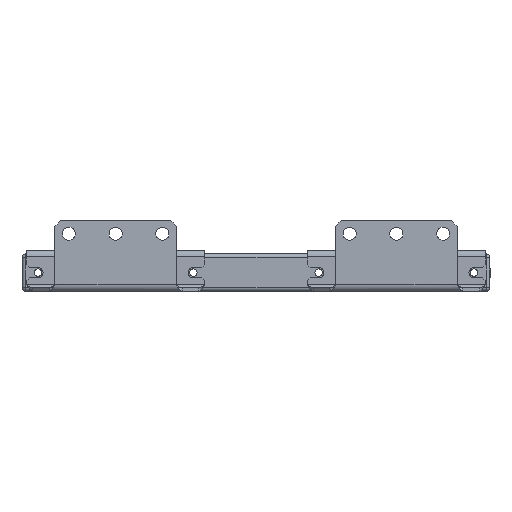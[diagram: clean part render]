
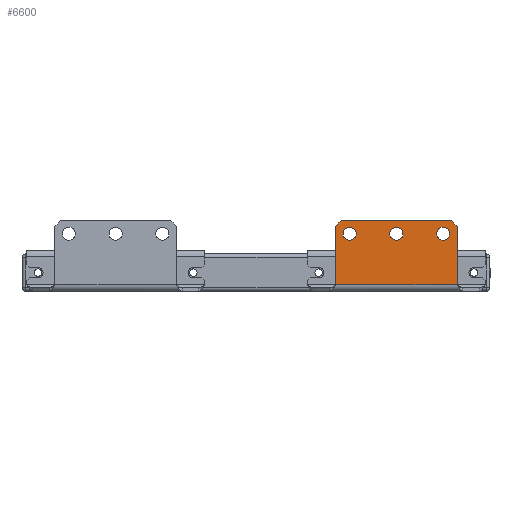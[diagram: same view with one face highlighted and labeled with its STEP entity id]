
A CAD part, left-side view. The second image highlights one B-rep face of the part: STEP entity #6600.
In plain terms, the highlighted planar face has unit normal (-1, 0, 0).
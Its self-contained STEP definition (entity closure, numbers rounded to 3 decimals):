
#2474 = DIRECTION ( 'NONE',  ( 0., 0., 1. ) ) ;
#2475 = DIRECTION ( 'NONE',  ( 1., 0., 0. ) ) ;
#2476 = CARTESIAN_POINT ( 'NONE',  ( -242.5, -27.5, 37.75 ) ) ;
#2477 = PLANE ( 'NONE',  #3867 ) ;
#3561 = AXIS2_PLACEMENT_3D ( 'NONE', #5512, #5985, #5703 ) ;
#3828 = FACE_OUTER_BOUND ( 'NONE', #12578, .T. ) ;
#3834 = FACE_BOUND ( 'NONE', #7842, .T. ) ;
#3840 = FACE_BOUND ( 'NONE', #12105, .T. ) ;
#3843 = FACE_BOUND ( 'NONE', #7916, .T. ) ;
#3867 = AXIS2_PLACEMENT_3D ( 'NONE', #2476, #2475, #2474 ) ;
#3918 = AXIS2_PLACEMENT_3D ( 'NONE', #5907, #5486, #5451 ) ;
#4187 = AXIS2_PLACEMENT_3D ( 'NONE', #5259, #5831, #5062 ) ;
#4262 = CARTESIAN_POINT ( 'NONE',  ( -242.5, -75., 27.25 ) ) ;
#4410 = CARTESIAN_POINT ( 'NONE',  ( -242.5, -107.5, 3.5 ) ) ;
#4426 = CARTESIAN_POINT ( 'NONE',  ( -242.5, -50., 27.25 ) ) ;
#4454 = CARTESIAN_POINT ( 'NONE',  ( -242.5, -100., 27.25 ) ) ;
#4510 = CARTESIAN_POINT ( 'NONE',  ( -242.5, -75., 34.25 ) ) ;
#4516 = CARTESIAN_POINT ( 'NONE',  ( -242.5, -50., 34.25 ) ) ;
#4518 = CARTESIAN_POINT ( 'NONE',  ( -242.5, -42.5, 3.5 ) ) ;
#4627 = CARTESIAN_POINT ( 'NONE',  ( -242.5, -42.5, 34.75 ) ) ;
#4647 = CARTESIAN_POINT ( 'NONE',  ( -242.5, -104.5, 37.75 ) ) ;
#4666 = CARTESIAN_POINT ( 'NONE',  ( -242.5, -100., 34.25 ) ) ;
#4793 = CARTESIAN_POINT ( 'NONE',  ( -242.5, -107.5, 34.75 ) ) ;
#5062 = DIRECTION ( 'NONE',  ( 0., 0., -1. ) ) ;
#5259 = CARTESIAN_POINT ( 'NONE',  ( -242.5, -75., 30.75 ) ) ;
#5451 = DIRECTION ( 'NONE',  ( 0., 0., -1. ) ) ;
#5486 = DIRECTION ( 'NONE',  ( 1., 0., 0. ) ) ;
#5512 = CARTESIAN_POINT ( 'NONE',  ( -242.5, -100., 30.75 ) ) ;
#5703 = DIRECTION ( 'NONE',  ( 0., 0., -1. ) ) ;
#5831 = DIRECTION ( 'NONE',  ( 1., 0., 0. ) ) ;
#5907 = CARTESIAN_POINT ( 'NONE',  ( -242.5, -50., 30.75 ) ) ;
#5985 = DIRECTION ( 'NONE',  ( 1., 0., 0. ) ) ;
#6294 = CIRCLE ( 'NONE', #3918, 3.5 ) ;
#6296 = CIRCLE ( 'NONE', #3561, 3.5 ) ;
#6304 = CIRCLE ( 'NONE', #4187, 3.5 ) ;
#6600 = ADVANCED_FACE ( 'NONE', ( #3843, #3840, #3834, #3828 ), #2477, .F. ) ;
#7842 = EDGE_LOOP ( 'NONE', ( #11879, #12349 ) ) ;
#7916 = EDGE_LOOP ( 'NONE', ( #12341, #12166 ) ) ;
#8023 = CARTESIAN_POINT ( 'NONE',  ( -242.5, -27.5, 3.5 ) ) ;
#8052 = LINE ( 'NONE', #8023, #11677 ) ;
#8103 = CARTESIAN_POINT ( 'NONE',  ( -242.5, -75., 30.75 ) ) ;
#8122 = DIRECTION ( 'NONE',  ( 0., -1., 0. ) ) ;
#8202 = DIRECTION ( 'NONE',  ( 0., -0.707, -0.707 ) ) ;
#8207 = DIRECTION ( 'NONE',  ( 1., 0., 0. ) ) ;
#8232 = DIRECTION ( 'NONE',  ( 0., 0., -1. ) ) ;
#8276 = CARTESIAN_POINT ( 'NONE',  ( -242.5, -104.5, 37.75 ) ) ;
#8352 = DIRECTION ( 'NONE',  ( 0., -1., 0. ) ) ;
#8354 = CARTESIAN_POINT ( 'NONE',  ( -242.5, -27.5, 37.75 ) ) ;
#8355 = LINE ( 'NONE', #8354, #11620 ) ;
#8393 = DIRECTION ( 'NONE',  ( 0., 0., -1. ) ) ;
#8394 = DIRECTION ( 'NONE',  ( 1., 0., 0. ) ) ;
#8395 = DIRECTION ( 'NONE',  ( 0., 0., -1. ) ) ;
#8396 = CARTESIAN_POINT ( 'NONE',  ( -242.5, -107.5, 37.75 ) ) ;
#8397 = LINE ( 'NONE', #8396, #11634 ) ;
#8398 = CARTESIAN_POINT ( 'NONE',  ( -242.5, -100., 30.75 ) ) ;
#8401 = DIRECTION ( 'NONE',  ( 0., 0., -1. ) ) ;
#8402 = DIRECTION ( 'NONE',  ( 1., 0., 0. ) ) ;
#8589 = CARTESIAN_POINT ( 'NONE',  ( -242.5, -45.5, 37.75 ) ) ;
#8715 = CARTESIAN_POINT ( 'NONE',  ( -242.5, -50., 30.75 ) ) ;
#8868 = CARTESIAN_POINT ( 'NONE',  ( -242.5, -42.5, 37.75 ) ) ;
#8893 = LINE ( 'NONE', #8868, #11649 ) ;
#8929 = LINE ( 'NONE', #9046, #11628 ) ;
#8958 = DIRECTION ( 'NONE',  ( 0., 0., 1. ) ) ;
#9029 = DIRECTION ( 'NONE',  ( 0., -0.707, 0.707 ) ) ;
#9046 = CARTESIAN_POINT ( 'NONE',  ( -242.5, -42.5, 34.75 ) ) ;
#9060 = LINE ( 'NONE', #8276, #11630 ) ;
#10085 = EDGE_CURVE ( 'NONE', #10756, #10683, #6304, .T. ) ;
#10137 = EDGE_CURVE ( 'NONE', #11123, #10829, #6296, .T. ) ;
#10141 = EDGE_CURVE ( 'NONE', #10916, #10680, #6294, .T. ) ;
#10517 = EDGE_CURVE ( 'NONE', #10962, #11211, #8052, .T. ) ;
#10518 = EDGE_CURVE ( 'NONE', #10962, #10842, #8893, .T. ) ;
#10519 = EDGE_CURVE ( 'NONE', #10842, #10652, #8929, .T. ) ;
#10520 = EDGE_CURVE ( 'NONE', #10830, #11208, #9060, .T. ) ;
#10521 = EDGE_CURVE ( 'NONE', #10680, #10916, #11433, .T. ) ;
#10523 = EDGE_CURVE ( 'NONE', #10683, #10756, #11405, .T. ) ;
#10525 = EDGE_CURVE ( 'NONE', #11208, #11211, #8397, .T. ) ;
#10526 = EDGE_CURVE ( 'NONE', #10829, #11123, #11407, .T. ) ;
#10539 = EDGE_CURVE ( 'NONE', #10652, #10830, #8355, .T. ) ;
#10652 = VERTEX_POINT ( 'NONE', #8589 ) ;
#10680 = VERTEX_POINT ( 'NONE', #4516 ) ;
#10683 = VERTEX_POINT ( 'NONE', #4510 ) ;
#10756 = VERTEX_POINT ( 'NONE', #4262 ) ;
#10829 = VERTEX_POINT ( 'NONE', #4666 ) ;
#10830 = VERTEX_POINT ( 'NONE', #4647 ) ;
#10842 = VERTEX_POINT ( 'NONE', #4627 ) ;
#10916 = VERTEX_POINT ( 'NONE', #4426 ) ;
#10962 = VERTEX_POINT ( 'NONE', #4518 ) ;
#11123 = VERTEX_POINT ( 'NONE', #4454 ) ;
#11208 = VERTEX_POINT ( 'NONE', #4793 ) ;
#11211 = VERTEX_POINT ( 'NONE', #4410 ) ;
#11405 = CIRCLE ( 'NONE', #11698, 3.5 ) ;
#11407 = CIRCLE ( 'NONE', #11633, 3.5 ) ;
#11433 = CIRCLE ( 'NONE', #11629, 3.5 ) ;
#11620 = VECTOR ( 'NONE', #8352, 1000. ) ;
#11628 = VECTOR ( 'NONE', #9029, 1000. ) ;
#11629 = AXIS2_PLACEMENT_3D ( 'NONE', #8715, #8207, #8232 ) ;
#11630 = VECTOR ( 'NONE', #8202, 1000. ) ;
#11633 = AXIS2_PLACEMENT_3D ( 'NONE', #8398, #8394, #8393 ) ;
#11634 = VECTOR ( 'NONE', #8395, 1000. ) ;
#11649 = VECTOR ( 'NONE', #8958, 1000. ) ;
#11677 = VECTOR ( 'NONE', #8122, 1000. ) ;
#11698 = AXIS2_PLACEMENT_3D ( 'NONE', #8103, #8402, #8401 ) ;
#11879 = ORIENTED_EDGE ( 'NONE', *, *, #10141, .T. ) ;
#11884 = ORIENTED_EDGE ( 'NONE', *, *, #10539, .F. ) ;
#11891 = ORIENTED_EDGE ( 'NONE', *, *, #10517, .T. ) ;
#12105 = EDGE_LOOP ( 'NONE', ( #12162, #12343 ) ) ;
#12158 = ORIENTED_EDGE ( 'NONE', *, *, #10518, .F. ) ;
#12162 = ORIENTED_EDGE ( 'NONE', *, *, #10137, .T. ) ;
#12166 = ORIENTED_EDGE ( 'NONE', *, *, #10523, .T. ) ;
#12341 = ORIENTED_EDGE ( 'NONE', *, *, #10085, .T. ) ;
#12343 = ORIENTED_EDGE ( 'NONE', *, *, #10526, .T. ) ;
#12349 = ORIENTED_EDGE ( 'NONE', *, *, #10521, .T. ) ;
#12354 = ORIENTED_EDGE ( 'NONE', *, *, #10519, .F. ) ;
#12360 = ORIENTED_EDGE ( 'NONE', *, *, #10520, .F. ) ;
#12372 = ORIENTED_EDGE ( 'NONE', *, *, #10525, .F. ) ;
#12578 = EDGE_LOOP ( 'NONE', ( #11884, #12354, #12158, #11891, #12372, #12360 ) ) ;
